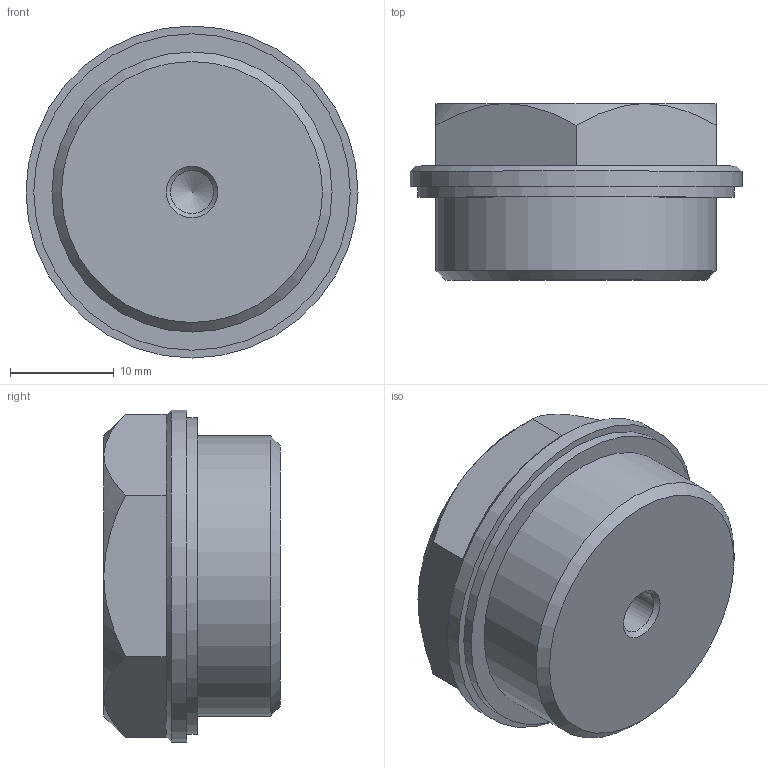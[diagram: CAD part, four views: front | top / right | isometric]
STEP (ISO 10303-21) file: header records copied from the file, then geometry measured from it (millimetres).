
FILE_DESCRIPTION( ( 'STEP AP203' ), '1' );
FILE_NAME( 'C:/Temp/Ganter_Step_05_03_2020/data/3_5/gn742/gn742_1/Threaded plug GN 742-32-M27x1,5-ES-1.stp', '2020-03-12T13:39:04', ( 'License CC BY-ND 4.0' ), ( 'CADENAS' ), ' ', 'PARTsolutions', ' ' );
FILE_SCHEMA( ( 'CONFIG_CONTROL_DESIGN' ) );
Length unit declared in the file: millimetre
Products named in the file (1): _Threaded plug GN 742-32-M27x1,5-ES-1
Bounding box: 32 x 17 x 32 mm (x, y, z)
Volume: 10440 mm3; surface area: 3196.2 mm2
Topology: 1 solids, 1 shells, 63 faces, 149 edges, 92 vertices
Faces by surface type: plane 49, cone 10, cylinder 4
Full cylindrical faces by diameter (mm): 4.134 x1, 27 x1, 30.5 x1, 32 x1
Entity records: 1825 total; most frequent: CARTESIAN_POINT 378, DIRECTION 283, ORIENTED_EDGE 278, EDGE_CURVE 139, LINE 99, VECTOR 99, AXIS2_PLACEMENT_3D 92, VERTEX_POINT 91
